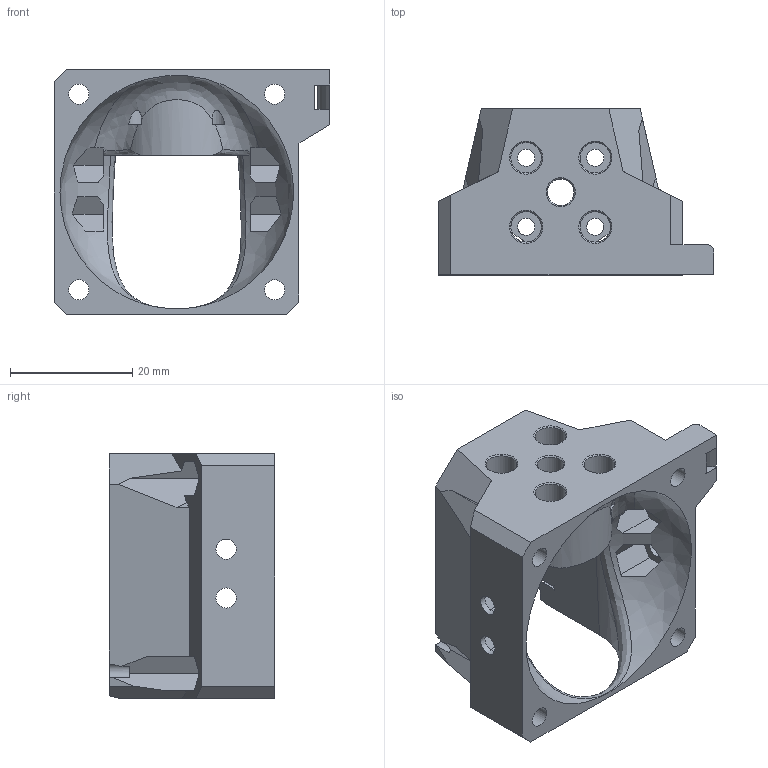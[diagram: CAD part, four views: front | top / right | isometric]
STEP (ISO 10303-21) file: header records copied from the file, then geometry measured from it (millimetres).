
FILE_DESCRIPTION(/* description */ (''),/* implementation_level */ '2;1');
FILE_NAME(/* name */ 'hotend_rapido_EVA.step',/* time_stamp */ '2024-01-21T15:52:33+01:00',/* author */ (''),/* organization */ (''),/* preprocessor_version */ 'ST-DEVELOPER v20',/* originating_system */ 'Autodesk Translation Framework v12.14.0.127',/* authorisation */ '');
FILE_SCHEMA (('AUTOMOTIVE_DESIGN { 1 0 10303 214 3 1 1 }'));
Length unit declared in the file: millimetre
Products named in the file (1): hotend_rapido
Bounding box: 45 x 27.15 x 40 mm (x, y, z)
Volume: 15696.4 mm3; surface area: 9359.1 mm2
Topology: 1 solids, 1 shells, 136 faces, 404 edges, 268 vertices
Faces by surface type: plane 98, cylinder 25, cone 7, bspline 6
Full cylindrical faces by diameter (mm): 2.8 x4, 3.3 x8, 4.35 x1, 5 x4
Entity records: 6408 total; most frequent: CARTESIAN_POINT 2728, ORIENTED_EDGE 808, DIRECTION 676, EDGE_CURVE 404, LINE 270, VECTOR 270, VERTEX_POINT 268, AXIS2_PLACEMENT_3D 203
